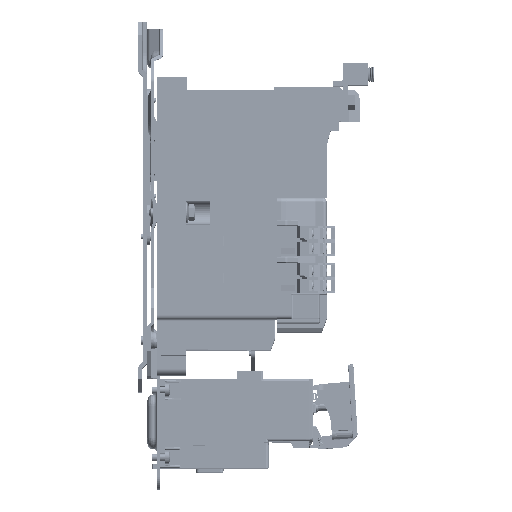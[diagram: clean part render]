
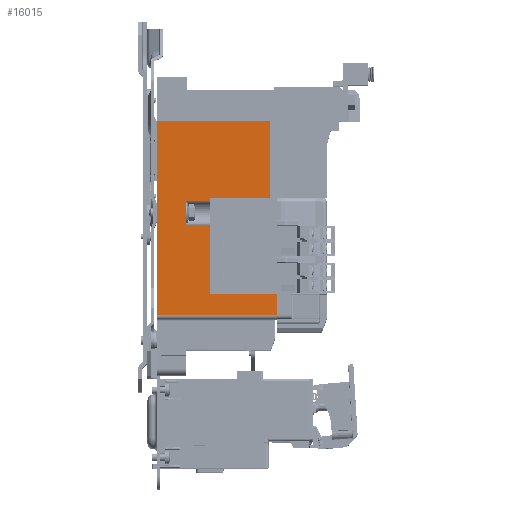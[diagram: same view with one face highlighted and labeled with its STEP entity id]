
A CAD part, top view. The second image highlights one B-rep face of the part: STEP entity #16015.
In plain terms, the highlighted planar face has unit normal (0, 0, 1).
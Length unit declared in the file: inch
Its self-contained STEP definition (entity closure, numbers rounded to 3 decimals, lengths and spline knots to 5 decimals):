
#12484=DIRECTION('',(1.,0.,0.));
#12485=VECTOR('',#12484,0.09117);
#12486=CARTESIAN_POINT('',(-5.82897,1.72,2.595));
#12487=LINE('',#12486,#12485);
#12500=DIRECTION('',(1.,0.,0.));
#12501=VECTOR('',#12500,1.99041);
#12502=CARTESIAN_POINT('',(-5.05788,1.72,2.595));
#12503=LINE('',#12502,#12501);
#12578=DIRECTION('',(-1.,0.,0.));
#12579=VECTOR('',#12578,0.67992);
#12580=CARTESIAN_POINT('',(-5.05788,1.03417,2.595));
#12581=LINE('',#12580,#12579);
#12582=DIRECTION('',(0.,1.,0.));
#12583=VECTOR('',#12582,0.68583);
#12584=CARTESIAN_POINT('',(-5.05788,1.03417,2.595));
#12585=LINE('',#12584,#12583);
#12586=DIRECTION('',(0.,1.,0.));
#12587=VECTOR('',#12586,1.925);
#12588=CARTESIAN_POINT('',(-3.06747,1.72,2.595));
#12589=LINE('',#12588,#12587);
#12590=DIRECTION('',(0.,1.,0.));
#12591=VECTOR('',#12590,0.68583);
#12592=CARTESIAN_POINT('',(-5.7378,1.03417,2.595));
#12593=LINE('',#12592,#12591);
#12618=DIRECTION('',(0.,1.,0.));
#12619=VECTOR('',#12618,1.745);
#12620=CARTESIAN_POINT('',(-5.82897,1.72,2.595));
#12621=LINE('',#12620,#12619);
#12634=DIRECTION('',(1.,0.,0.));
#12635=VECTOR('',#12634,2.2);
#12636=CARTESIAN_POINT('',(-8.02897,3.465,2.595));
#12637=LINE('',#12636,#12635);
#12674=DIRECTION('',(1.,0.,0.));
#12675=VECTOR('',#12674,0.62742);
#12676=CARTESIAN_POINT('',(-3.06747,3.645,2.595));
#12677=LINE('',#12676,#12675);
#12772=DIRECTION('',(1.,0.,0.));
#12773=VECTOR('',#12772,5.58892);
#12774=CARTESIAN_POINT('',(-8.02897,0.19,2.595));
#12775=LINE('',#12774,#12773);
#14812=DIRECTION('',(0.,-1.,0.));
#14813=VECTOR('',#14812,3.455);
#14814=CARTESIAN_POINT('',(-2.44005,3.645,2.595));
#14815=LINE('',#14814,#14813);
#15036=DIRECTION('',(0.,-1.,0.));
#15037=VECTOR('',#15036,3.275);
#15038=CARTESIAN_POINT('',(-8.02897,3.465,2.595));
#15039=LINE('',#15038,#15037);
#15044=CARTESIAN_POINT('',(-8.02897,3.465,2.595));
#15045=CARTESIAN_POINT('',(-5.82897,3.465,2.595));
#15046=VERTEX_POINT('',#15044);
#15047=VERTEX_POINT('',#15045);
#15052=CARTESIAN_POINT('',(-5.82897,1.72,2.595));
#15053=VERTEX_POINT('',#15052);
#15068=CARTESIAN_POINT('',(-3.06747,1.72,2.595));
#15070=VERTEX_POINT('',#15068);
#15081=CARTESIAN_POINT('',(-3.06747,3.645,2.595));
#15083=VERTEX_POINT('',#15081);
#15356=CARTESIAN_POINT('',(-8.02897,0.19,2.595));
#15357=VERTEX_POINT('',#15356);
#15532=CARTESIAN_POINT('',(-2.44005,3.645,2.595));
#15533=CARTESIAN_POINT('',(-2.44005,0.19,2.595));
#15534=VERTEX_POINT('',#15532);
#15535=VERTEX_POINT('',#15533);
#15740=CARTESIAN_POINT('',(-5.7378,1.72,2.595));
#15741=VERTEX_POINT('',#15740);
#15742=CARTESIAN_POINT('',(-5.05788,1.72,2.595));
#15743=VERTEX_POINT('',#15742);
#15744=CARTESIAN_POINT('',(-5.05788,1.03417,2.595));
#15745=CARTESIAN_POINT('',(-5.7378,1.03417,2.595));
#15746=VERTEX_POINT('',#15744);
#15747=VERTEX_POINT('',#15745);
#15987=CARTESIAN_POINT('',(-8.02897,0.19,2.595));
#15988=DIRECTION('',(0.,0.,1.));
#15989=DIRECTION('',(1.,0.,0.));
#15990=AXIS2_PLACEMENT_3D('',#15987,#15988,#15989);
#15991=PLANE('',#15990);
#15992=ORIENTED_EDGE('',*,*,#15958,.F.);
#15994=ORIENTED_EDGE('',*,*,#15993,.T.);
#15995=ORIENTED_EDGE('',*,*,#15869,.T.);
#15997=ORIENTED_EDGE('',*,*,#15996,.T.);
#15999=ORIENTED_EDGE('',*,*,#15998,.T.);
#16001=ORIENTED_EDGE('',*,*,#16000,.T.);
#16003=ORIENTED_EDGE('',*,*,#16002,.F.);
#16005=ORIENTED_EDGE('',*,*,#16004,.F.);
#16007=ORIENTED_EDGE('',*,*,#16006,.T.);
#16009=ORIENTED_EDGE('',*,*,#16008,.F.);
#16010=ORIENTED_EDGE('',*,*,#15861,.T.);
#16012=ORIENTED_EDGE('',*,*,#16011,.F.);
#16013=EDGE_LOOP('',(#15992,#15994,#15995,#15997,#15999,#16001,#16003,#16005,
#16007,#16009,#16010,#16012));
#16014=FACE_OUTER_BOUND('',#16013,.F.);
#16015=ADVANCED_FACE('',(#16014),#15991,.T.);
#15861=EDGE_CURVE('',#15053,#15741,#12487,.T.);
#15869=EDGE_CURVE('',#15743,#15070,#12503,.T.);
#15958=EDGE_CURVE('',#15746,#15747,#12581,.T.);
#15993=EDGE_CURVE('',#15746,#15743,#12585,.T.);
#15996=EDGE_CURVE('',#15070,#15083,#12589,.T.);
#15998=EDGE_CURVE('',#15083,#15534,#12677,.T.);
#16000=EDGE_CURVE('',#15534,#15535,#14815,.T.);
#16002=EDGE_CURVE('',#15357,#15535,#12775,.T.);
#16004=EDGE_CURVE('',#15046,#15357,#15039,.T.);
#16006=EDGE_CURVE('',#15046,#15047,#12637,.T.);
#16008=EDGE_CURVE('',#15053,#15047,#12621,.T.);
#16011=EDGE_CURVE('',#15747,#15741,#12593,.T.);
